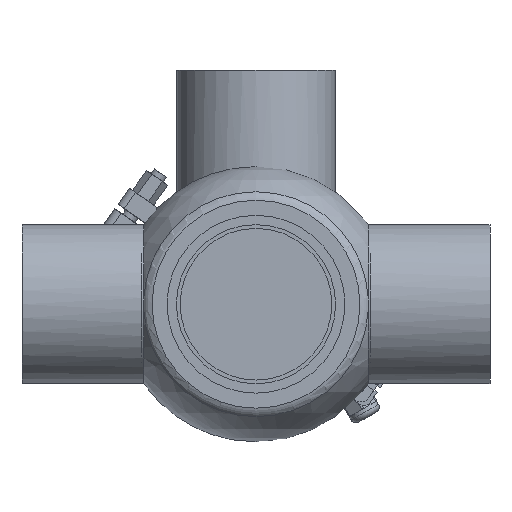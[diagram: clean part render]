
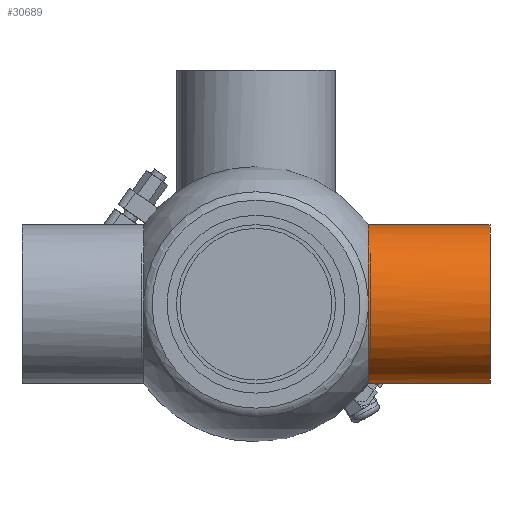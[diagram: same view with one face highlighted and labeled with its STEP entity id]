
A CAD part, front view. The second image highlights one B-rep face of the part: STEP entity #30689.
In plain terms, the highlighted cylindrical face has radius 42.5 mm (diameter 85 mm), a full revolution.
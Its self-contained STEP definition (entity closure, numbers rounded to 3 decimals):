
#555 = DIRECTION ( 'NONE',  ( -1., 0., 0. ) ) ;
#1710 = CARTESIAN_POINT ( 'NONE',  ( 59.967, 0., 0. ) ) ;
#3823 = CARTESIAN_POINT ( 'NONE',  ( 59.967, 42.453, -2. ) ) ;
#4803 = AXIS2_PLACEMENT_3D ( 'NONE', #46173, #21986, #40627 ) ;
#8974 = CARTESIAN_POINT ( 'NONE',  ( 0., 0., 0. ) ) ;
#8982 = VERTEX_POINT ( 'NONE', #47921 ) ;
#9218 = VERTEX_POINT ( 'NONE', #52094 ) ;
#9841 = CARTESIAN_POINT ( 'NONE',  ( 59.967, -42.367, 3.354 ) ) ;
#10714 = CARTESIAN_POINT ( 'NONE',  ( 59.965, -42.5, -0.553 ) ) ;
#10981 = DIRECTION ( 'NONE',  ( 1., 0., 0. ) ) ;
#11276 = VERTEX_POINT ( 'NONE', #25784 ) ;
#12214 = VERTEX_POINT ( 'NONE', #9841 ) ;
#12686 = CIRCLE ( 'NONE', #4803, 42.5 ) ;
#14857 = CYLINDRICAL_SURFACE ( 'NONE', #47178, 42.5 ) ;
#15226 = B_SPLINE_CURVE_WITH_KNOTS ( 'NONE', 3,
 ( #52645, #15952, #43660, #10714, #19728, #53261, #24378, #39265 ),
 .UNSPECIFIED., .F., .F.,
 ( 4, 2, 2, 4 ),
 ( 0.025, 0.028, 0.03, 0.032 ),
 .UNSPECIFIED. ) ;
#15952 = CARTESIAN_POINT ( 'NONE',  ( 59.967, -42.455, 2.244 ) ) ;
#19728 = CARTESIAN_POINT ( 'NONE',  ( 59.965, -42.489, -1.116 ) ) ;
#21986 = DIRECTION ( 'NONE',  ( 1., 0., 0. ) ) ;
#22409 = EDGE_CURVE ( 'NONE', #9218, #9218, #25629, .T. ) ;
#22738 = CARTESIAN_POINT ( 'NONE',  ( 59.989, 42.484, -1.338 ) ) ;
#23085 = EDGE_CURVE ( 'NONE', #11276, #8982, #27488, .T. ) ;
#23393 = VERTEX_POINT ( 'NONE', #46817 ) ;
#24188 = DIRECTION ( 'NONE',  ( 0., 0., 1. ) ) ;
#24378 = CARTESIAN_POINT ( 'NONE',  ( 59.967, -42.412, -2.797 ) ) ;
#25629 = CIRCLE ( 'NONE', #50444, 42.5 ) ;
#25784 = CARTESIAN_POINT ( 'NONE',  ( 59.967, 42.453, -2. ) ) ;
#27488 = B_SPLINE_CURVE_WITH_KNOTS ( 'NONE', 3,
 ( #3823, #22738, #35487, #54773, #59131, #35776 ),
 .UNSPECIFIED., .F., .F.,
 ( 4, 2, 4 ),
 ( 0.024, 0.026, 0.028 ),
 .UNSPECIFIED. ) ;
#27882 = DIRECTION ( 'NONE',  ( -1., 0., 0. ) ) ;
#28017 = EDGE_CURVE ( 'NONE', #23393, #11276, #59944, .T. ) ;
#28434 = DIRECTION ( 'NONE',  ( 0., 0., 1. ) ) ;
#30172 = AXIS2_PLACEMENT_3D ( 'NONE', #1710, #10981, #52908 ) ;
#30689 = ADVANCED_FACE ( 'NONE', ( #61180, #60869 ), #14857, .T. ) ;
#31705 = ORIENTED_EDGE ( 'NONE', *, *, #22409, .T. ) ;
#32540 = EDGE_CURVE ( 'NONE', #12214, #23393, #15226, .T. ) ;
#33453 = ORIENTED_EDGE ( 'NONE', *, *, #32540, .T. ) ;
#35487 = CARTESIAN_POINT ( 'NONE',  ( 60., 42.5, -0.672 ) ) ;
#35776 = CARTESIAN_POINT ( 'NONE',  ( 59.967, 42.453, 2. ) ) ;
#39265 = CARTESIAN_POINT ( 'NONE',  ( 59.967, -42.367, -3.354 ) ) ;
#40627 = DIRECTION ( 'NONE',  ( 0., 0., 1. ) ) ;
#43103 = CARTESIAN_POINT ( 'NONE',  ( 125., 0., 0. ) ) ;
#43224 = EDGE_LOOP ( 'NONE', ( #56590, #33453, #44296, #44864 ) ) ;
#43660 = CARTESIAN_POINT ( 'NONE',  ( 59.965, -42.5, 1.129 ) ) ;
#44296 = ORIENTED_EDGE ( 'NONE', *, *, #28017, .T. ) ;
#44864 = ORIENTED_EDGE ( 'NONE', *, *, #23085, .T. ) ;
#45848 = EDGE_CURVE ( 'NONE', #8982, #12214, #12686, .T. ) ;
#46173 = CARTESIAN_POINT ( 'NONE',  ( 59.967, 0., 0. ) ) ;
#46817 = CARTESIAN_POINT ( 'NONE',  ( 59.967, -42.367, -3.354 ) ) ;
#47178 = AXIS2_PLACEMENT_3D ( 'NONE', #8974, #27882, #24188 ) ;
#47921 = CARTESIAN_POINT ( 'NONE',  ( 59.967, 42.453, 2. ) ) ;
#50444 = AXIS2_PLACEMENT_3D ( 'NONE', #43103, #555, #28434 ) ;
#52094 = CARTESIAN_POINT ( 'NONE',  ( 125., 0., 42.5 ) ) ;
#52645 = CARTESIAN_POINT ( 'NONE',  ( 59.967, -42.367, 3.354 ) ) ;
#52908 = DIRECTION ( 'NONE',  ( 0., 0., 1. ) ) ;
#53261 = CARTESIAN_POINT ( 'NONE',  ( 59.966, -42.445, -2.238 ) ) ;
#54110 = EDGE_LOOP ( 'NONE', ( #31705 ) ) ;
#54773 = CARTESIAN_POINT ( 'NONE',  ( 60., 42.5, 0.666 ) ) ;
#56590 = ORIENTED_EDGE ( 'NONE', *, *, #45848, .T. ) ;
#59131 = CARTESIAN_POINT ( 'NONE',  ( 59.989, 42.484, 1.336 ) ) ;
#59944 = CIRCLE ( 'NONE', #30172, 42.5 ) ;
#60869 = FACE_OUTER_BOUND ( 'NONE', #54110, .T. ) ;
#61180 = FACE_OUTER_BOUND ( 'NONE', #43224, .T. ) ;
